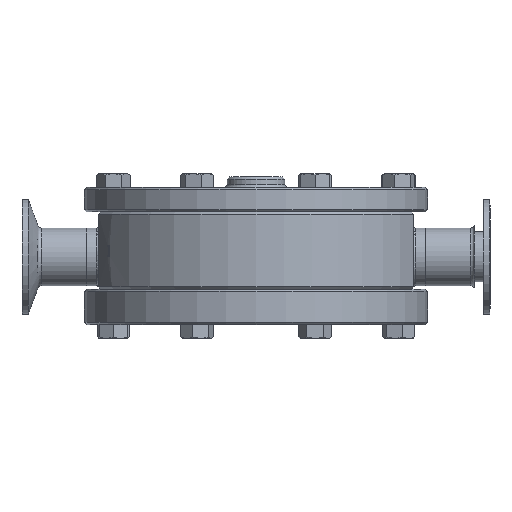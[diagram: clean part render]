
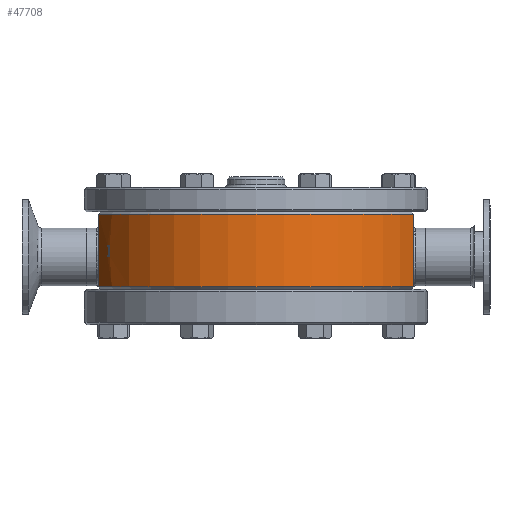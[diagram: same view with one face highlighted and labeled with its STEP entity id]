
A CAD part, front view. The second image highlights one B-rep face of the part: STEP entity #47708.
In plain terms, the highlighted cylindrical face has radius 75.565 mm (diameter 151.13 mm), a partial arc.
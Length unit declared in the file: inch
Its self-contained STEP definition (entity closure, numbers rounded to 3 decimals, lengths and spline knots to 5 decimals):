
#1633=LINE('',#62617,#5579);
#1641=LINE('',#62655,#5587);
#1734=LINE('',#68851,#5680);
#1738=LINE('',#68860,#5684);
#1741=LINE('',#68868,#5687);
#1744=LINE('',#68876,#5690);
#1747=LINE('',#68884,#5693);
#1750=LINE('',#68892,#5696);
#5579=VECTOR('',#52640,0.3937);
#5587=VECTOR('',#52664,0.3937);
#5680=VECTOR('',#53309,0.3937);
#5684=VECTOR('',#53319,0.3937);
#5687=VECTOR('',#53328,0.3937);
#5690=VECTOR('',#53337,0.3937);
#5693=VECTOR('',#53346,0.3937);
#5696=VECTOR('',#53355,0.3937);
#9577=FACE_BOUND('',#15993,.T.);
#9918=CIRCLE('',#49824,2.975);
#9919=CIRCLE('',#49827,2.975);
#9920=CIRCLE('',#49830,2.975);
#9921=CIRCLE('',#49833,2.975);
#9922=CIRCLE('',#49836,2.975);
#9923=CIRCLE('',#49839,2.975);
#10137=CIRCLE('',#50574,2.975);
#10138=CIRCLE('',#50579,2.975);
#13156=FACE_OUTER_BOUND('',#15992,.T.);
#15992=EDGE_LOOP('',(#37710,#37711,#37712,#37713));
#15993=EDGE_LOOP('',(#37714,#37715,#37716,#37717,#37718,#37719,#37720,#37721,
#37722,#37723,#37724,#37725));
#19885=VERTEX_POINT('',#62614);
#19886=VERTEX_POINT('',#62616);
#19896=VERTEX_POINT('',#62652);
#19897=VERTEX_POINT('',#62654);
#20746=VERTEX_POINT('',#68849);
#20747=VERTEX_POINT('',#68850);
#20748=VERTEX_POINT('',#68855);
#20749=VERTEX_POINT('',#68859);
#20750=VERTEX_POINT('',#68863);
#20751=VERTEX_POINT('',#68867);
#20752=VERTEX_POINT('',#68871);
#20753=VERTEX_POINT('',#68875);
#20754=VERTEX_POINT('',#68879);
#20755=VERTEX_POINT('',#68883);
#20756=VERTEX_POINT('',#68887);
#20757=VERTEX_POINT('',#68891);
#24699=EDGE_CURVE('',#19886,#19885,#1633,.T.);
#24713=EDGE_CURVE('',#19897,#19896,#1641,.T.);
#25580=EDGE_CURVE('',#20746,#20747,#1734,.T.);
#25583=EDGE_CURVE('',#20748,#20746,#9918,.T.);
#25585=EDGE_CURVE('',#20749,#20748,#1738,.T.);
#25587=EDGE_CURVE('',#20750,#20749,#9919,.T.);
#25589=EDGE_CURVE('',#20751,#20750,#1741,.T.);
#25591=EDGE_CURVE('',#20752,#20751,#9920,.T.);
#25593=EDGE_CURVE('',#20753,#20752,#1744,.T.);
#25595=EDGE_CURVE('',#20754,#20753,#9921,.T.);
#25597=EDGE_CURVE('',#20755,#20754,#1747,.T.);
#25599=EDGE_CURVE('',#20756,#20755,#9922,.T.);
#25601=EDGE_CURVE('',#20757,#20756,#1750,.T.);
#25603=EDGE_CURVE('',#20747,#20757,#9923,.T.);
#27513=EDGE_CURVE('',#19897,#19885,#10137,.T.);
#27517=EDGE_CURVE('',#19886,#19896,#10138,.T.);
#37710=ORIENTED_EDGE('',*,*,#27513,.F.);
#37711=ORIENTED_EDGE('',*,*,#24713,.T.);
#37712=ORIENTED_EDGE('',*,*,#27517,.F.);
#37713=ORIENTED_EDGE('',*,*,#24699,.T.);
#37714=ORIENTED_EDGE('',*,*,#25580,.T.);
#37715=ORIENTED_EDGE('',*,*,#25603,.T.);
#37716=ORIENTED_EDGE('',*,*,#25601,.T.);
#37717=ORIENTED_EDGE('',*,*,#25599,.T.);
#37718=ORIENTED_EDGE('',*,*,#25597,.T.);
#37719=ORIENTED_EDGE('',*,*,#25595,.T.);
#37720=ORIENTED_EDGE('',*,*,#25593,.T.);
#37721=ORIENTED_EDGE('',*,*,#25591,.T.);
#37722=ORIENTED_EDGE('',*,*,#25589,.T.);
#37723=ORIENTED_EDGE('',*,*,#25587,.T.);
#37724=ORIENTED_EDGE('',*,*,#25585,.T.);
#37725=ORIENTED_EDGE('',*,*,#25583,.T.);
#46574=CYLINDRICAL_SURFACE('',#50578,2.975);
#47708=ADVANCED_FACE('',(#13156,#9577),#46574,.T.);
#49824=AXIS2_PLACEMENT_3D('',#68856,#53314,#53315);
#49827=AXIS2_PLACEMENT_3D('',#68864,#53323,#53324);
#49830=AXIS2_PLACEMENT_3D('',#68872,#53332,#53333);
#49833=AXIS2_PLACEMENT_3D('',#68880,#53341,#53342);
#49836=AXIS2_PLACEMENT_3D('',#68888,#53350,#53351);
#49839=AXIS2_PLACEMENT_3D('',#68895,#53359,#53360);
#50574=AXIS2_PLACEMENT_3D('',#96080,#55817,#55818);
#50578=AXIS2_PLACEMENT_3D('',#96096,#55825,#55826);
#50579=AXIS2_PLACEMENT_3D('',#96097,#55827,#55828);
#52640=DIRECTION('',(0.,0.,-1.));
#52664=DIRECTION('',(0.,0.,1.));
#53309=DIRECTION('',(0.,0.,1.));
#53314=DIRECTION('center_axis',(0.,0.,
-1.));
#53315=DIRECTION('ref_axis',(1.,0.,0.));
#53319=DIRECTION('',(0.,0.,1.));
#53323=DIRECTION('center_axis',(0.,0.,
1.));
#53324=DIRECTION('ref_axis',(1.,0.,0.));
#53328=DIRECTION('',(0.,0.,1.));
#53332=DIRECTION('center_axis',(0.,0.,
-1.));
#53333=DIRECTION('ref_axis',(1.,0.,0.));
#53337=DIRECTION('',(0.,0.,-1.));
#53341=DIRECTION('center_axis',(0.,0.,
1.));
#53342=DIRECTION('ref_axis',(1.,0.,0.));
#53346=DIRECTION('',(0.,0.,-1.));
#53350=DIRECTION('center_axis',(0.,0.,
-1.));
#53351=DIRECTION('ref_axis',(1.,0.,0.));
#53355=DIRECTION('',(0.,0.,-1.));
#53359=DIRECTION('center_axis',(0.,0.,
1.));
#53360=DIRECTION('ref_axis',(1.,0.,0.));
#55817=DIRECTION('center_axis',(0.,0.,
-1.));
#55818=DIRECTION('ref_axis',(1.,0.,0.));
#55825=DIRECTION('center_axis',(0.,0.,
1.));
#55826=DIRECTION('ref_axis',(1.,0.,0.));
#55827=DIRECTION('center_axis',(0.,0.,
1.));
#55828=DIRECTION('ref_axis',(1.,0.,0.));
#62614=CARTESIAN_POINT('',(-2.73268,-1.17604,-0.52));
#62616=CARTESIAN_POINT('',(-2.73268,-1.17604,0.74));
#62617=CARTESIAN_POINT('',(-2.73268,-1.17604,0.));
#62652=CARTESIAN_POINT('',(2.73268,-1.17604,0.74));
#62654=CARTESIAN_POINT('',(2.73268,-1.17604,-0.52));
#62655=CARTESIAN_POINT('',(2.73268,-1.17604,0.));
#68849=CARTESIAN_POINT('',(-2.57434,-1.4911,0.18089));
#68850=CARTESIAN_POINT('',(-2.57434,-1.4911,0.20131));
#68851=CARTESIAN_POINT('',(-2.57434,-1.4911,0.));
#68855=CARTESIAN_POINT('',(-2.56149,-1.51307,0.18089));
#68856=CARTESIAN_POINT('Origin',(0.,0.,
0.18089));
#68859=CARTESIAN_POINT('',(-2.56149,-1.51307,0.02173));
#68860=CARTESIAN_POINT('',(-2.56149,-1.51307,0.));
#68863=CARTESIAN_POINT('',(-2.57434,-1.4911,0.02173));
#68864=CARTESIAN_POINT('Origin',(0.,0.,
0.02173));
#68867=CARTESIAN_POINT('',(-2.57434,-1.4911,0.00131));
#68868=CARTESIAN_POINT('',(-2.57434,-1.4911,0.));
#68871=CARTESIAN_POINT('',(-2.53464,-1.55763,0.00131));
#68872=CARTESIAN_POINT('Origin',(0.,0.,
0.00131));
#68875=CARTESIAN_POINT('',(-2.53464,-1.55763,0.02173));
#68876=CARTESIAN_POINT('',(-2.53464,-1.55763,0.));
#68879=CARTESIAN_POINT('',(-2.54787,-1.53589,0.02173));
#68880=CARTESIAN_POINT('Origin',(0.,0.,
0.02173));
#68883=CARTESIAN_POINT('',(-2.54787,-1.53589,0.18089));
#68884=CARTESIAN_POINT('',(-2.54787,-1.53589,0.));
#68887=CARTESIAN_POINT('',(-2.53464,-1.55763,0.18089));
#68888=CARTESIAN_POINT('Origin',(0.,0.,
0.18089));
#68891=CARTESIAN_POINT('',(-2.53464,-1.55763,0.20131));
#68892=CARTESIAN_POINT('',(-2.53464,-1.55763,0.));
#68895=CARTESIAN_POINT('Origin',(0.,0.,
0.20131));
#96080=CARTESIAN_POINT('Origin',(0.,0.,
-0.52));
#96096=CARTESIAN_POINT('Origin',(0.,0.,
0.));
#96097=CARTESIAN_POINT('Origin',(0.,0.,
0.74));
